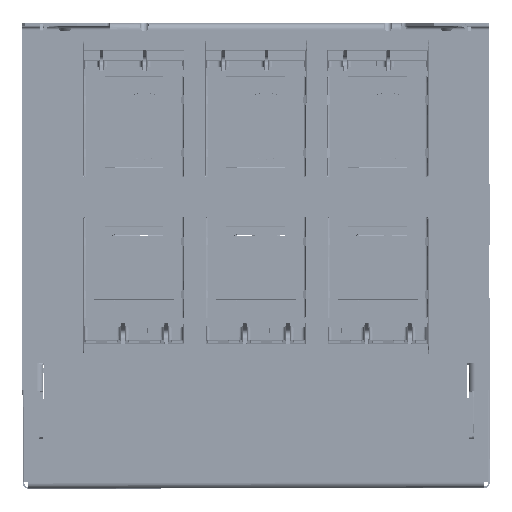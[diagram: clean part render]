
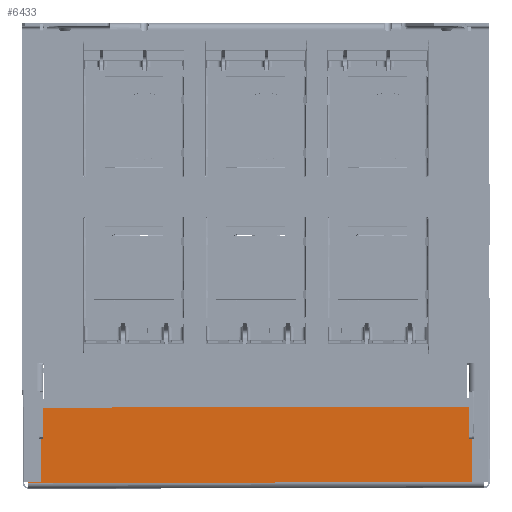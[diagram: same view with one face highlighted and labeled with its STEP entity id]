
A CAD part, front view. The second image highlights one B-rep face of the part: STEP entity #6433.
In plain terms, the highlighted planar face has unit normal (0, -1, 0) as drawn and (0, 0, -1) by its records, which use the part's own axes.
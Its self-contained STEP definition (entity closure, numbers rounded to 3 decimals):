
#851=DIRECTION('',(1.,0.,0.));
#852=VECTOR('',#851,430.);
#853=CARTESIAN_POINT('',(-215.,-5.5,-86.65));
#854=LINE('',#853,#852);
#2199=DIRECTION('',(-1.,0.,0.));
#2200=VECTOR('',#2199,438.);
#2201=CARTESIAN_POINT('',(219.,-76.5,-86.65));
#2202=LINE('',#2201,#2200);
#2211=DIRECTION('',(0.,-1.,0.));
#2212=VECTOR('',#2211,0.5);
#2213=CARTESIAN_POINT('',(-215.,-5.5,-86.65));
#2214=LINE('',#2213,#2212);
#2215=DIRECTION('',(-1.,0.,0.));
#2216=VECTOR('',#2215,4.);
#2217=CARTESIAN_POINT('',(-215.,-6.,-86.65));
#2218=LINE('',#2217,#2216);
#2219=DIRECTION('',(0.,-1.,0.));
#2220=VECTOR('',#2219,70.5);
#2221=CARTESIAN_POINT('',(-219.,-6.,-86.65));
#2222=LINE('',#2221,#2220);
#2223=DIRECTION('',(0.,1.,0.));
#2224=VECTOR('',#2223,70.5);
#2225=CARTESIAN_POINT('',(219.,-76.5,-86.65));
#2226=LINE('',#2225,#2224);
#2227=DIRECTION('',(-1.,0.,0.));
#2228=VECTOR('',#2227,4.);
#2229=CARTESIAN_POINT('',(219.,-6.,-86.65));
#2230=LINE('',#2229,#2228);
#2231=CARTESIAN_POINT('',(211.5,-10.,-86.65));
#2232=DIRECTION('',(0.,0.,-1.));
#2233=DIRECTION('',(1.,0.,0.));
#2234=AXIS2_PLACEMENT_3D('',#2231,#2232,#2233);
#2236=CARTESIAN_POINT('',(211.5,-10.,-86.65));
#2237=DIRECTION('',(0.,0.,-1.));
#2238=DIRECTION('',(-1.,0.,0.));
#2239=AXIS2_PLACEMENT_3D('',#2236,#2237,#2238);
#2241=CARTESIAN_POINT('',(211.5,-72.,-86.65));
#2242=DIRECTION('',(0.,0.,-1.));
#2243=DIRECTION('',(1.,0.,0.));
#2244=AXIS2_PLACEMENT_3D('',#2241,#2242,#2243);
#2246=CARTESIAN_POINT('',(211.5,-72.,-86.65));
#2247=DIRECTION('',(0.,0.,-1.));
#2248=DIRECTION('',(-1.,0.,0.));
#2249=AXIS2_PLACEMENT_3D('',#2246,#2247,#2248);
#2251=CARTESIAN_POINT('',(-212.,-72.5,-86.65));
#2252=DIRECTION('',(0.,0.,-1.));
#2253=DIRECTION('',(1.,0.,0.));
#2254=AXIS2_PLACEMENT_3D('',#2251,#2252,#2253);
#2256=CARTESIAN_POINT('',(-212.,-72.5,-86.65));
#2257=DIRECTION('',(0.,0.,-1.));
#2258=DIRECTION('',(-1.,0.,0.));
#2259=AXIS2_PLACEMENT_3D('',#2256,#2257,#2258);
#2261=CARTESIAN_POINT('',(-211.5,-10.,-86.65));
#2262=DIRECTION('',(0.,0.,-1.));
#2263=DIRECTION('',(1.,0.,0.));
#2264=AXIS2_PLACEMENT_3D('',#2261,#2262,#2263);
#2266=CARTESIAN_POINT('',(-211.5,-10.,-86.65));
#2267=DIRECTION('',(0.,0.,-1.));
#2268=DIRECTION('',(-1.,0.,0.));
#2269=AXIS2_PLACEMENT_3D('',#2266,#2267,#2268);
#2299=DIRECTION('',(0.,-1.,0.));
#2300=VECTOR('',#2299,0.5);
#2301=CARTESIAN_POINT('',(215.,-5.5,-86.65));
#2302=LINE('',#2301,#2300);
#2627=CARTESIAN_POINT('',(-215.,-5.5,-86.65));
#2628=VERTEX_POINT('',#2627);
#2629=CARTESIAN_POINT('',(215.,-5.5,-86.65));
#2630=VERTEX_POINT('',#2629);
#2969=CARTESIAN_POINT('',(-215.,-6.,-86.65));
#2971=VERTEX_POINT('',#2969);
#2975=CARTESIAN_POINT('',(-219.,-6.,-86.65));
#2976=VERTEX_POINT('',#2975);
#3001=CARTESIAN_POINT('',(219.,-76.5,-86.65));
#3002=CARTESIAN_POINT('',(-219.,-76.5,-86.65));
#3003=VERTEX_POINT('',#3001);
#3004=VERTEX_POINT('',#3002);
#3005=CARTESIAN_POINT('',(219.,-6.,-86.65));
#3006=VERTEX_POINT('',#3005);
#3007=CARTESIAN_POINT('',(215.,-6.,-86.65));
#3008=VERTEX_POINT('',#3007);
#3009=CARTESIAN_POINT('',(214.1,-10.,-86.65));
#3010=CARTESIAN_POINT('',(208.9,-10.,-86.65));
#3011=VERTEX_POINT('',#3009);
#3012=VERTEX_POINT('',#3010);
#3013=CARTESIAN_POINT('',(214.1,-72.,-86.65));
#3014=CARTESIAN_POINT('',(208.9,-72.,-86.65));
#3015=VERTEX_POINT('',#3013);
#3016=VERTEX_POINT('',#3014);
#3017=CARTESIAN_POINT('',(-209.4,-72.5,-86.65));
#3018=CARTESIAN_POINT('',(-214.6,-72.5,-86.65));
#3019=VERTEX_POINT('',#3017);
#3020=VERTEX_POINT('',#3018);
#3021=CARTESIAN_POINT('',(-208.9,-10.,-86.65));
#3022=CARTESIAN_POINT('',(-214.1,-10.,-86.65));
#3023=VERTEX_POINT('',#3021);
#3024=VERTEX_POINT('',#3022);
#6390=CARTESIAN_POINT('',(215.,-5.5,-86.65));
#6391=DIRECTION('',(0.,0.,-1.));
#6392=DIRECTION('',(0.,-1.,0.));
#6393=AXIS2_PLACEMENT_3D('',#6390,#6391,#6392);
#6394=PLANE('',#6393);
#6395=ORIENTED_EDGE('',*,*,#6307,.T.);
#6396=ORIENTED_EDGE('',*,*,#6325,.T.);
#6398=ORIENTED_EDGE('',*,*,#6397,.T.);
#6399=ORIENTED_EDGE('',*,*,#6380,.F.);
#6401=ORIENTED_EDGE('',*,*,#6400,.T.);
#6403=ORIENTED_EDGE('',*,*,#6402,.T.);
#6405=ORIENTED_EDGE('',*,*,#6404,.F.);
#6406=ORIENTED_EDGE('',*,*,#4356,.F.);
#6407=EDGE_LOOP('',(#6395,#6396,#6398,#6399,#6401,#6403,#6405,#6406));
#6408=FACE_OUTER_BOUND('',#6407,.F.);
#6410=ORIENTED_EDGE('',*,*,#6409,.T.);
#6412=ORIENTED_EDGE('',*,*,#6411,.T.);
#6413=EDGE_LOOP('',(#6410,#6412));
#6414=FACE_BOUND('',#6413,.F.);
#6416=ORIENTED_EDGE('',*,*,#6415,.T.);
#6418=ORIENTED_EDGE('',*,*,#6417,.T.);
#6419=EDGE_LOOP('',(#6416,#6418));
#6420=FACE_BOUND('',#6419,.F.);
#6422=ORIENTED_EDGE('',*,*,#6421,.T.);
#6424=ORIENTED_EDGE('',*,*,#6423,.T.);
#6425=EDGE_LOOP('',(#6422,#6424));
#6426=FACE_BOUND('',#6425,.F.);
#6428=ORIENTED_EDGE('',*,*,#6427,.T.);
#6430=ORIENTED_EDGE('',*,*,#6429,.T.);
#6431=EDGE_LOOP('',(#6428,#6430));
#6432=FACE_BOUND('',#6431,.F.);
#6433=ADVANCED_FACE('',(#6408,#6414,#6420,#6426,#6432),#6394,.T.);
#2235=CIRCLE('',#2234,2.6);
#2240=CIRCLE('',#2239,2.6);
#2245=CIRCLE('',#2244,2.6);
#2250=CIRCLE('',#2249,2.6);
#2255=CIRCLE('',#2254,2.6);
#2260=CIRCLE('',#2259,2.6);
#2265=CIRCLE('',#2264,2.6);
#2270=CIRCLE('',#2269,2.6);
#4356=EDGE_CURVE('',#2628,#2630,#854,.T.);
#6307=EDGE_CURVE('',#2628,#2971,#2214,.T.);
#6325=EDGE_CURVE('',#2971,#2976,#2218,.T.);
#6380=EDGE_CURVE('',#3003,#3004,#2202,.T.);
#6397=EDGE_CURVE('',#2976,#3004,#2222,.T.);
#6400=EDGE_CURVE('',#3003,#3006,#2226,.T.);
#6402=EDGE_CURVE('',#3006,#3008,#2230,.T.);
#6404=EDGE_CURVE('',#2630,#3008,#2302,.T.);
#6409=EDGE_CURVE('',#3011,#3012,#2235,.T.);
#6411=EDGE_CURVE('',#3012,#3011,#2240,.T.);
#6415=EDGE_CURVE('',#3015,#3016,#2245,.T.);
#6417=EDGE_CURVE('',#3016,#3015,#2250,.T.);
#6421=EDGE_CURVE('',#3019,#3020,#2255,.T.);
#6423=EDGE_CURVE('',#3020,#3019,#2260,.T.);
#6427=EDGE_CURVE('',#3023,#3024,#2265,.T.);
#6429=EDGE_CURVE('',#3024,#3023,#2270,.T.);
